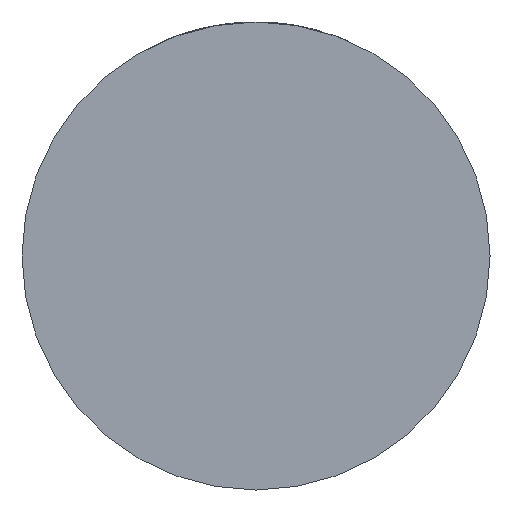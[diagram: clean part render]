
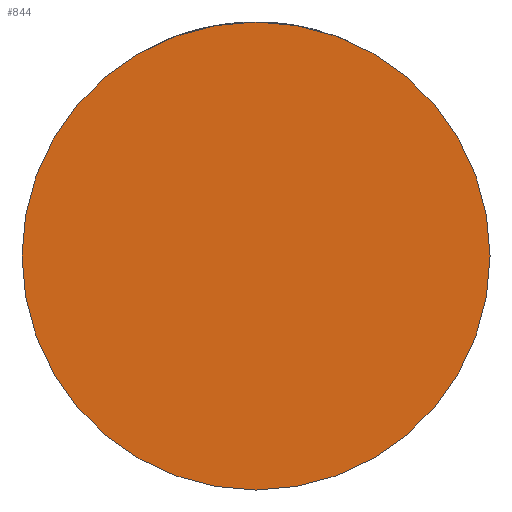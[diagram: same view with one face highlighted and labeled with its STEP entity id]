
A CAD part, front view. The second image highlights one B-rep face of the part: STEP entity #844.
In plain terms, the highlighted planar face has unit normal (0, -1, 0).
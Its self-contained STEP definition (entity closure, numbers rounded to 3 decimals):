
#88 = ORIENTED_EDGE ( 'NONE', *, *, #781, .T. ) ;
#377 = DIRECTION ( 'NONE',  ( 1., 0., 0. ) ) ;
#781 = EDGE_CURVE ( 'NONE', #3404, #2537, #854, .T. ) ;
#844 = ADVANCED_FACE ( 'NONE', ( #3073 ), #3821, .T. ) ;
#854 = CIRCLE ( 'NONE', #1501, 32. ) ;
#1267 = CARTESIAN_POINT ( 'NONE',  ( 32., -25., 0. ) ) ;
#1501 = AXIS2_PLACEMENT_3D ( 'NONE', #2095, #2757, #2462 ) ;
#1854 = AXIS2_PLACEMENT_3D ( 'NONE', #2779, #3777, #377 ) ;
#2095 = CARTESIAN_POINT ( 'NONE',  ( 0., -25., 0. ) ) ;
#2200 = CIRCLE ( 'NONE', #4204, 32. ) ;
#2249 = CARTESIAN_POINT ( 'NONE',  ( 0., -25., 0. ) ) ;
#2291 = DIRECTION ( 'NONE',  ( 0., -1., 0. ) ) ;
#2318 = DIRECTION ( 'NONE',  ( 1., 0., 0. ) ) ;
#2462 = DIRECTION ( 'NONE',  ( 1., 0., 0. ) ) ;
#2537 = VERTEX_POINT ( 'NONE', #3611 ) ;
#2603 = ORIENTED_EDGE ( 'NONE', *, *, #2695, .T. ) ;
#2695 = EDGE_CURVE ( 'NONE', #2537, #3404, #2200, .T. ) ;
#2757 = DIRECTION ( 'NONE',  ( 0., -1., 0. ) ) ;
#2779 = CARTESIAN_POINT ( 'NONE',  ( 0., -25., 0. ) ) ;
#3073 = FACE_OUTER_BOUND ( 'NONE', #3490, .T. ) ;
#3404 = VERTEX_POINT ( 'NONE', #1267 ) ;
#3490 = EDGE_LOOP ( 'NONE', ( #2603, #88 ) ) ;
#3611 = CARTESIAN_POINT ( 'NONE',  ( -32., -25., 0. ) ) ;
#3777 = DIRECTION ( 'NONE',  ( 0., -1., 0. ) ) ;
#3821 = PLANE ( 'NONE',  #1854 ) ;
#4204 = AXIS2_PLACEMENT_3D ( 'NONE', #2249, #2291, #2318 ) ;
